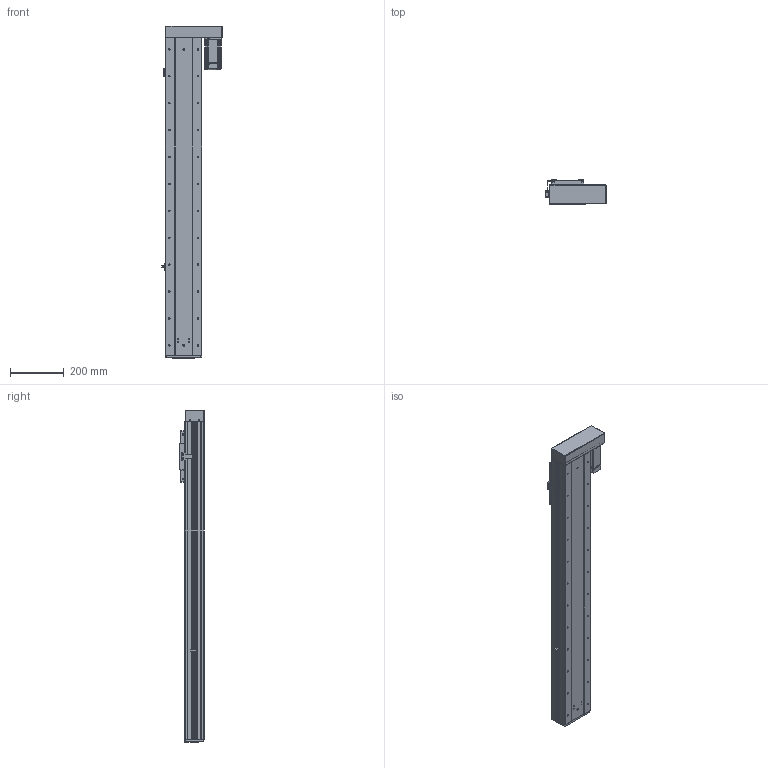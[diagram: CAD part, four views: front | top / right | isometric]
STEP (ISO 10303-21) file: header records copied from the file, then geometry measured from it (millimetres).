
FILE_DESCRIPTION (( 'STEP AP203' ), '1' );
FILE_NAME ('RY140F-L2020-300-RK.SLDASM_900.step', '2021-03-02T08:50:43', ( '盈信电脑' ), ( '东莞市道滘镇水果街19号' ), 'SwSTEP 2.0', 'SolidWorks 2012', '' );
FILE_SCHEMA (( 'CONFIG_CONTROL_DESIGN' ));
Products named in the file (19): RY140F-L2020-300-RK.SLDASM_900; RY140F-转折折电机座（7001）; RY140F-酘衵殏萇儂欶(400W); RY140F-左右折电机安装板(400W M5); 覜茼ん672; RY140F-672覜茼んえ; RY140F-詩湍揤え; 侐源滅袉蝶; RY140F-后盖板(铝件）; 15; 侂狟400W侜督萇儂; RY140F-直连型材铝滑块(16丝杆); RY100F-詩湍揤踡謫; RY140F-詩湍幗謫粣; RY140F-滅鳥奻裔; RY140F-直连型材铝滑块连接座; RY140F-300-RK倰第菁釱_900; RY140F-300-RK倰第奻裔啣_900; RY140F-300-RK蛌殏詩湍_900
Assembly tree (23 placements, depth 3):
  RY140F-L2020-300-RK.SLDASM_900
    RY140F-300-RK倰第菁釱_900
    RY140F-300-RK倰第奻裔啣_900  x2
    RY140F-300-RK蛌殏詩湍_900
    RY140F-直连型材铝滑块连接座
    RY140F-滅鳥奻裔
    RY140F-詩湍幗謫粣
    RY100F-詩湍揤踡謫
    RY140F-直连型材铝滑块(16丝杆)
    RY140F-后盖板(铝件）
    侂狟400W侜督萇儂
      15
    覜茼ん672
    RY140F-672覜茼んえ
    RY140F-詩湍揤え  x2
    侐源滅袉蝶  x4
    RY140F-转折折电机座（7001）
    RY140F-左右折电机安装板(400W M5)
    RY140F-酘衵殏萇儂欶(400W)
Bounding box: 224.7 x 91 x 1234 mm (x, y, z)
Volume: 4680250.6 mm3; surface area: 1674211.6 mm2
Topology: 22 solids, 22 shells, 2085 faces, 5681 edges, 3592 vertices
Faces by surface type: cylinder 1020, plane 789, cone 246, bspline 26, torus 4
Entity records: 65667 total; most frequent: CARTESIAN_POINT 13817, DIRECTION 10566, ORIENTED_EDGE 10210, EDGE_CURVE 5105, AXIS2_PLACEMENT_3D 3805, VERTEX_POINT 3332, VECTOR 2956, LINE 2956
